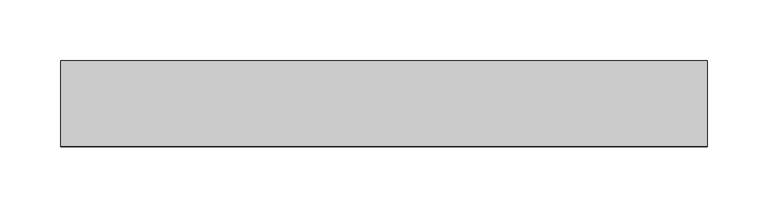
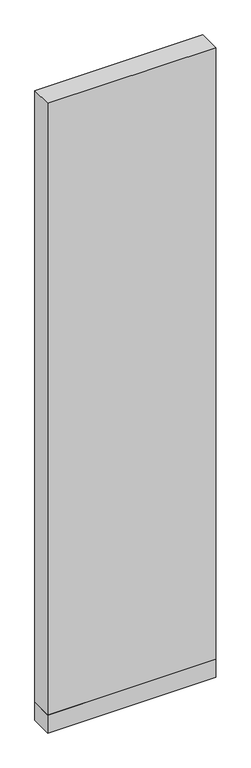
"""IFC4 building model written with IfcOpenShell, lengths in millimetres: plate geometry, 営_パーティションパネル_下部 : パーティションパネル_下部."""

from ifc_helpers import new_model, si_unit, frame, origin, origin_with_axes, place, context, project, spatial, polyline, outline, extrude, source, transform, mapped, element, save


def plate_95e3ff3d(model_context):
    return source(origin(), model_context, "Body", "SweptSolid", [
        extrude(outline(polyline([(-264.9999998, -35.0), (-264.9999998, 35.0), (264.9999998, 35.0), (264.9999998, -35.0), (-264.9999998, -35.0)])), origin_with_axes(), (0.0, 0.0, 1.0), 60.0),
        extrude(outline(polyline([(-264.9999998, -35.0), (-264.9999998, 35.0), (264.9999998, 35.0), (264.9999998, -35.0), (-264.9999998, -35.0)])), frame((0.0, 0.0, 60.0), z_axis=(0.0, 0.0, 1.0), x_axis=(1.0, 0.0, 0.0)), (0.0, 0.0, 1.0), 2040.0),
    ])


if __name__ == "__main__":
    model = new_model("IFC4")
    model_context = context("Model", 3, world=origin())
    ifc_project = project(units=[si_unit("LENGTHUNIT", "METRE", prefix="MILLI")], contexts=[model_context])
    site = spatial("IfcSite", under=ifc_project)
    building = spatial("IfcBuilding", under=site)
    placement = place(None, origin())
    plate_shape = plate_95e3ff3d(model_context)
    element("IfcPlate", 1, ObjectType="営_パーティションパネル_下部 : パーティションパネル_下部", at=placement, inside=building, context=model_context, shape_type="MappedRepresentation", body=[
        mapped(plate_shape, transform((0.0, 0.0, 0.0), x_axis=(1.0, 0.0, 0.0), y_axis=(0.0, 1.0, 0.0), z_axis=(0.0, 0.0, 1.0))),
    ])
    save(model, "model.ifc")
